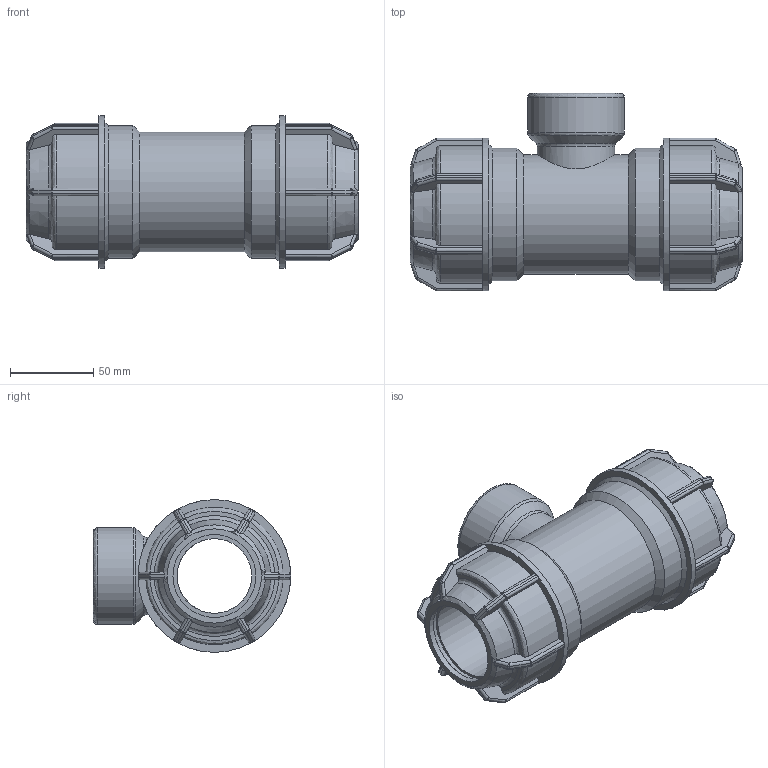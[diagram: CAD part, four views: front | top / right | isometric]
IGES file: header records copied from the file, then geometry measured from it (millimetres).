
Global section: file name: 141400050015.ipt; native system: Autodesk Inventor 2015; preprocessor: unknown; author: KIM; date: 20180416.111612; units: millimetre
Bounding box: 200 x 119 x 92 mm (x, y, z)
Volume: 587499.3 mm3; surface area: 108282.5 mm2
Topology: 1 solids, 1 shells, 413 faces, 1004 edges, 587 vertices
Faces by surface type: plane 195, cylinder 115, sphere 48, revolution 38, cone 17
Full cylindrical faces by diameter (mm): 46.639 x1, 58.298 x1, 72 x1, 80 x2, 92 x2
